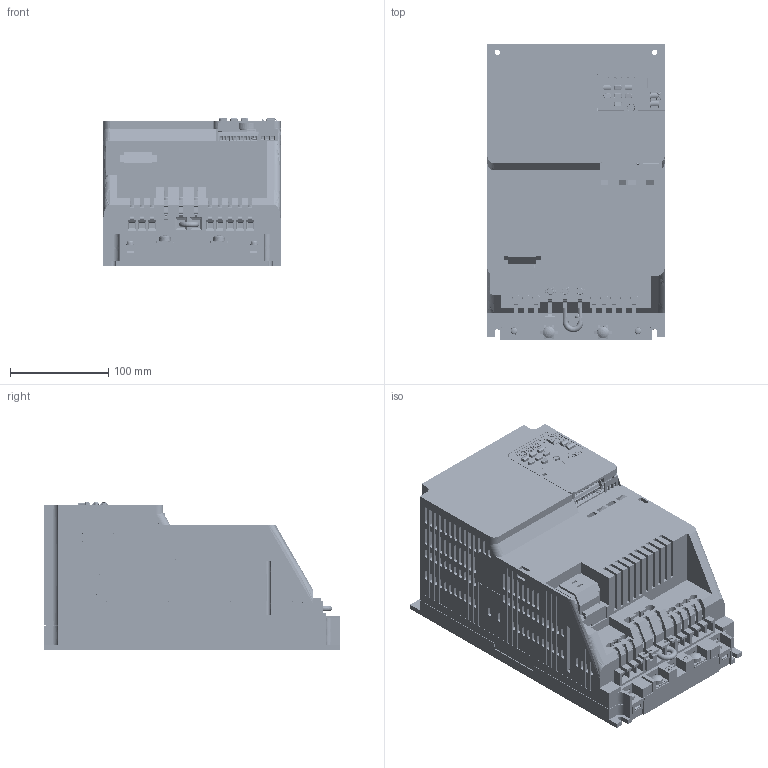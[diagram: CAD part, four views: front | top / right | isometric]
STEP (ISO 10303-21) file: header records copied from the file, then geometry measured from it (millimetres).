
FILE_DESCRIPTION((''),'2;1');
FILE_NAME('CIPR-GA50X4038AJXX_ASM','2021-05-20T',('ktc_001'),('YASKAWA ELECTRIC CORCORATION'),'PRO/ENGINEER BY PARAMETRIC TECHNOLOGY CORPORATION, 2017170','PRO/ENGINEER BY PARAMETRIC TECHNOLOGY CORPORATION, 2017170','');
FILE_SCHEMA(('AUTOMOTIVE_DESIGN { 1 0 10303 214 1 1 1 1 }'));
Products named in the file (12): CIPR-GA50_4038_STD_IP20_BODY; CIPR-GA50_ALL_TB; CIPR-GA50_KEYPAD; CIPR-GA50_USB_COVER; CIPR-GA50_COMMON_1; CIPR-GA50_COMMON_2; CIPR-GA50_COMMON_6; CIPR-GA50_TERMINAL_COVER_5; CIPR-GA50_FP; CIPR-GA50_SCREW_GND_M6X16; CIPR-GA50_SCREW_M4X12; CIPR-GA50X4038AJXX_ASM
Assembly tree (13 placements, depth 2):
  CIPR-GA50X4038AJXX_ASM
    CIPR-GA50_4038_STD_IP20_BODY
    CIPR-GA50_ALL_TB
    CIPR-GA50_KEYPAD
    CIPR-GA50_USB_COVER
    CIPR-GA50_COMMON_1
    CIPR-GA50_COMMON_2
    CIPR-GA50_COMMON_6
    CIPR-GA50_TERMINAL_COVER_5
    CIPR-GA50_FP
    CIPR-GA50_SCREW_GND_M6X16  x2
    CIPR-GA50_SCREW_M4X12  x2
Bounding box: 180 x 300 x 149.75 mm (x, y, z)
Surface area: 436924 mm2 (no closed solid volume)
Topology: 0 solids, 0 shells, 8172 faces, 44108 edges, 44028 vertices
Faces by surface type: bspline 8094, torus 62, sphere 16
Entity records: 716218 total; most frequent: CARTESIAN_POINT 251925, DIRECTION 64209, TRIMMED_CURVE 60143, VECTOR 56259, LINE 56259, DEFINITIONAL_REPRESENTATION 43484, PCURVE 43484, COMPOSITE_CURVE_SEGMENT 43484
